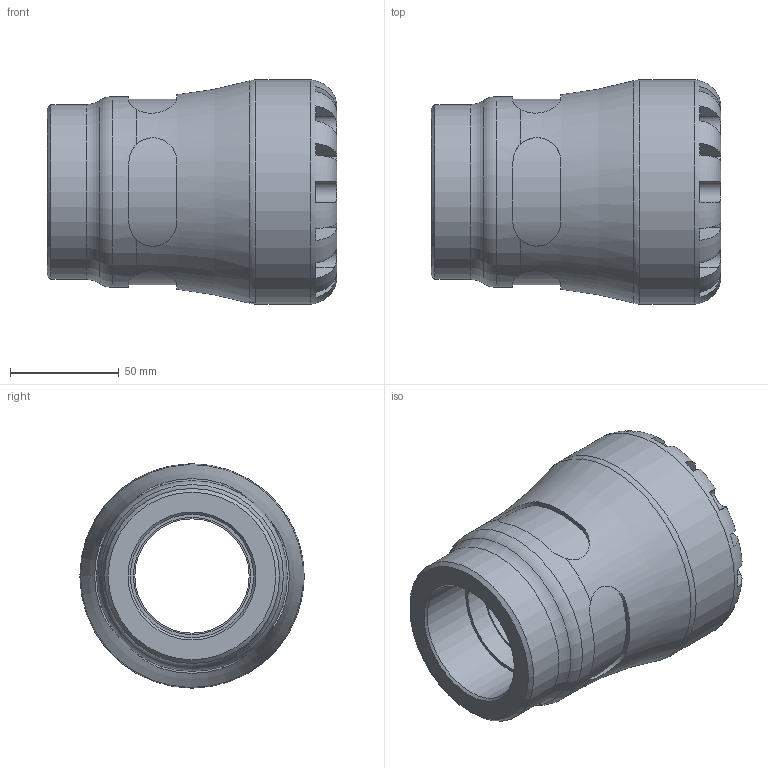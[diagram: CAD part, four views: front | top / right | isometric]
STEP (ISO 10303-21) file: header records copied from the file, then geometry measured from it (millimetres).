
FILE_DESCRIPTION(/* description */ ('PLASSON FEMALE INTEGRAL BRASS THREAD 63X2" SERIES 1'),/* implementation_level */ '2;1');
FILE_NAME(/* name */ 'C:\Dropbox\KIMPROJECTS-Inventor\99-16-3568-Processing\1073\107300063020_197300063020.ipt.stp',/* time_stamp */ '2017-01-22T11:35:52+02:00',/* author */ ('KIM'),/* organization */ (''),/* preprocessor_version */ 'ST-DEVELOPER v15.6',/* originating_system */ 'Autodesk Inventor 2015',/* authorisation */ '');
FILE_SCHEMA (('AUTOMOTIVE_DESIGN { 1 0 10303 214 3 1 1 }'));
Length unit declared in the file: millimetre
Products named in the file (1): 107300063020_197300063020
Bounding box: 133 x 103 x 103 mm (x, y, z)
Volume: 495574.5 mm3; surface area: 75060.4 mm2
Topology: 1 solids, 1 shells, 104 faces, 265 edges, 166 vertices
Faces by surface type: plane 61, cylinder 35, torus 5, cone 3
Full cylindrical faces by diameter (mm): 52.5 x1, 53.823 x1, 56.656 x1, 63 x1, 80.34 x1, 87.55 x1, 103 x1
Entity records: 3900 total; most frequent: CARTESIAN_POINT 1513, ORIENTED_EDGE 492, DIRECTION 478, EDGE_CURVE 246, AXIS2_PLACEMENT_3D 199, VERTEX_POINT 162, EDGE_LOOP 124, FACE_OUTER_BOUND 104
